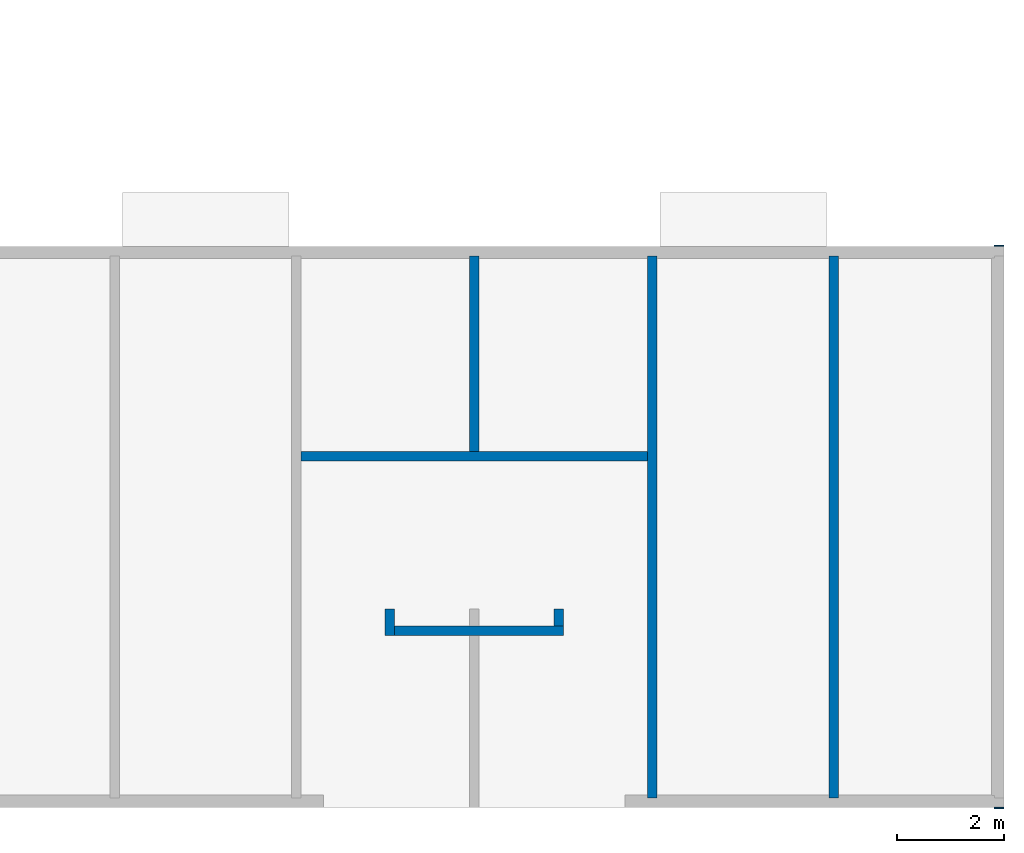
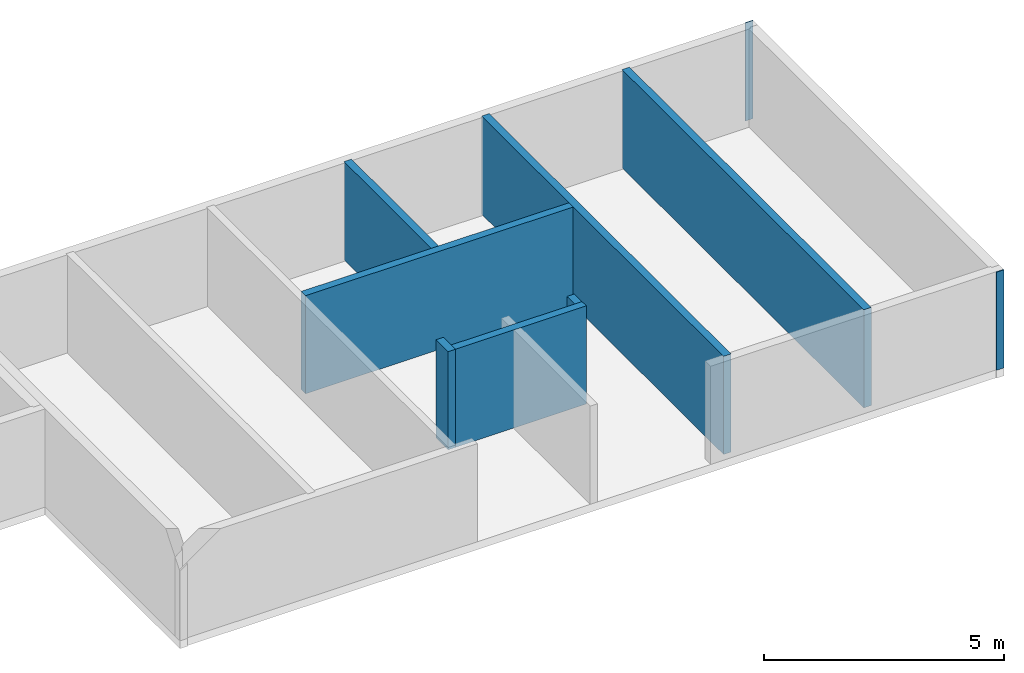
# One storey, part 5 of 9: 9 walls.
"""IFC2X3 building model written with IfcOpenShell, lengths in metres."""

from ifc_helpers import new_model, si_unit, frame, frame_2d, origin, origin_with_axes, place, context, project, spatial, rectangle, extrude, element, save


model = new_model("IFC2X3")

# Units and contexts
model_context = context("Model", 3, precision=1e-06, world=origin())
ifc_project = project(units=[si_unit("LENGTHUNIT", "METRE"), si_unit("PLANEANGLEUNIT", "RADIAN")], contexts=[model_context])

# Site, building, storey
site = spatial("IfcSite", under=ifc_project, CompositionType="ELEMENT")
building = spatial("IfcBuilding", under=site, CompositionType="ELEMENT")
storey = spatial("IfcBuildingStorey", under=building, Name="r+2", CompositionType="ELEMENT", Elevation=5.4)

# Walls
placement = place(None, origin())
wall_1_placement = place(placement, frame((51.3499994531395, -2.199922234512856, 5.4), z_axis=(0.0, 0.0, 1.0), x_axis=(-1.0, 0.0, 0.0)))
element("IfcWall", 1, at=wall_1_placement, inside=storey, context=model_context, shape_type="SweptSolid", body=[
    extrude(rectangle(XDim=3.150000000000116, YDim=0.18, at=frame_2d((1.575000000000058, 0.09), x_axis=(1.0, 0.0)), kind="CURVE"), origin_with_axes(), (0.0, 0.0, 1.0), 2.5),
])
wall_2_placement = place(placement, frame((49.77499999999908, 1.050077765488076, 5.4), z_axis=(0.0, 0.0, 1.0), x_axis=(0.0, 1.0, 0.0)))
element("IfcWall", 2, at=wall_2_placement, inside=storey, context=model_context, shape_type="SweptSolid", body=[
    extrude(rectangle(XDim=3.639999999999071, YDim=0.18, at=frame_2d((1.819999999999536, 0.09), x_axis=(1.0, 0.0)), kind="CURVE"), origin_with_axes(), (0.0, 0.0, 1.0), 2.5),
])
wall_3_placement = place(placement, frame((56.469999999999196, -5.399837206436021, 5.4), z_axis=(0.0, 0.0, 1.0), x_axis=(0.0, 1.0, 0.0)))
element("IfcWall", 3, at=wall_3_placement, inside=storey, context=model_context, shape_type="SweptSolid", body=[
    extrude(rectangle(XDim=10.08991497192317, YDim=0.18, at=frame_2d((5.044957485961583, 0.09), x_axis=(1.0, 0.0)), kind="CURVE"), origin_with_axes(), (0.0, 0.0, 1.0), 2.5),
])
wall_4_placement = place(placement, frame((51.169999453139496, -1.879922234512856, 5.4), z_axis=(0.0, 0.0, 1.0), x_axis=(0.0, -1.0, 0.0)))
element("IfcWall", 4, at=wall_4_placement, inside=storey, context=model_context, shape_type="SweptSolid", body=[
    extrude(rectangle(XDim=0.32, YDim=0.18, at=frame_2d((0.16, 0.09), x_axis=(1.0, 0.0)), kind="CURVE"), origin_with_axes(), (0.0, 0.0, 1.0), 2.5),
])
wall_5_placement = place(placement, frame((48.199999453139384, -2.379922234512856, 5.4), z_axis=(0.0, 0.0, 1.0), x_axis=(0.0, 1.0, 0.0)))
element("IfcWall", 5, at=wall_5_placement, inside=storey, context=model_context, shape_type="SweptSolid", body=[
    extrude(rectangle(XDim=0.5, YDim=0.18, at=frame_2d((0.25, 0.09), x_axis=(1.0, 0.0)), kind="CURVE"), origin_with_axes(), (0.0, 0.0, 1.0), 2.5),
])
wall_6_placement = place(placement, frame((53.08999993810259, -5.399837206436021, 5.4), z_axis=(0.0, 0.0, 1.0), x_axis=(0.0, 1.0, 0.0)))
element("IfcWall", 6, at=wall_6_placement, inside=storey, context=model_context, shape_type="SweptSolid", body=[
    extrude(rectangle(XDim=10.08991497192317, YDim=0.18, at=frame_2d((5.044957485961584, 0.09), x_axis=(1.0, 0.0)), kind="CURVE"), origin_with_axes(), (0.0, 0.0, 1.0), 2.5),
])
wall_7_placement = place(placement, frame((52.90999947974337, 1.050077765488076, 5.4), z_axis=(0.0, 0.0, 1.0), x_axis=(-1.0, 0.0, 0.0)))
element("IfcWall", 7, at=wall_7_placement, inside=storey, context=model_context, shape_type="SweptSolid", body=[
    extrude(rectangle(XDim=6.449999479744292, YDim=0.18, at=frame_2d((3.224999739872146, 0.09), x_axis=(1.0, 0.0)), kind="CURVE"), origin_with_axes(), (0.0, 0.0, 1.0), 2.5),
])
wall_8_placement = place(placement, frame((59.54999999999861, 4.870077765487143, 5.4), z_axis=(0.0, 0.0, 1.0), x_axis=(-1.0, 0.0, 0.0)))
element("IfcWall", 8, at=wall_8_placement, inside=storey, context=model_context, shape_type="SweptSolid", body=[
    extrude(rectangle(XDim=0.18, YDim=0.020000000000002, at=frame_2d((0.09, 0.010000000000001), x_axis=(1.0, 0.0)), kind="CURVE"), frame((0.0, -0.020000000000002, 0.0), z_axis=(0.0, 0.0, 1.0), x_axis=(1.0, 0.0, 0.0)), (0.0, 0.0, 1.0), 2.5),
])
wall_9_placement = place(placement, frame((59.549999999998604, -5.599999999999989, 5.4), z_axis=(0.0, 0.0, 1.0), x_axis=(-1.0, 0.0, 0.0)))
element("IfcWall", 9, at=wall_9_placement, inside=storey, context=model_context, shape_type="SweptSolid", body=[
    extrude(rectangle(XDim=0.18, YDim=0.020162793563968, at=frame_2d((0.09, 0.010081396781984), x_axis=(1.0, 0.0)), kind="CURVE"), frame((0.0, -0.020162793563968, 0.0), z_axis=(0.0, 0.0, 1.0), x_axis=(1.0, 0.0, 0.0)), (0.0, 0.0, 1.0), 2.5),
])

save(model, "model.ifc")
